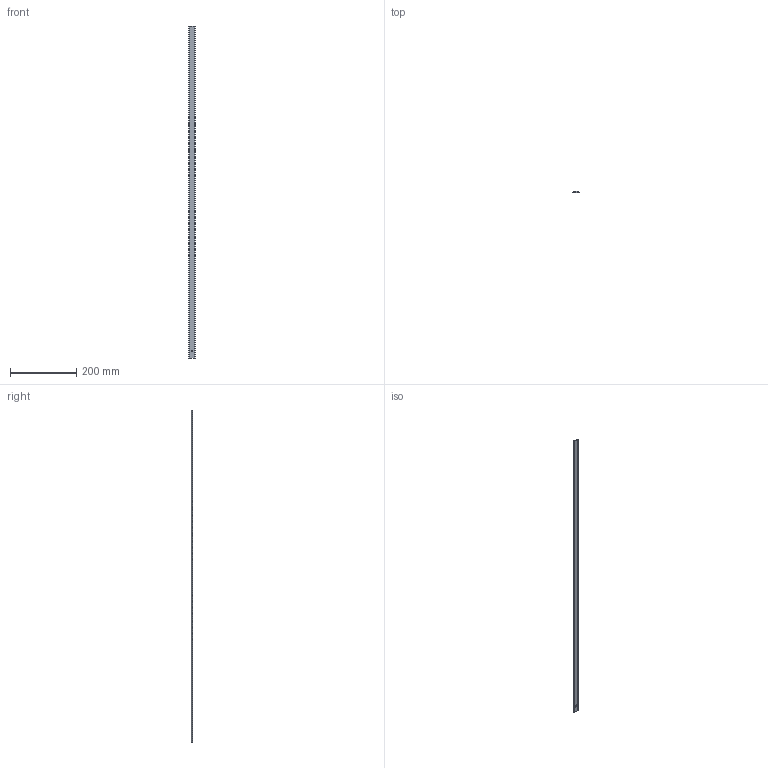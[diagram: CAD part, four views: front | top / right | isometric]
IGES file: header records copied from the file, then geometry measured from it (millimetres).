
Start section: SolidWorks IGES file using analytic representation for surfaces
Global section: file name: D:\CERAR\Dokumenti\DOKUMENTACIJA-mehanskih-delov-RLSizdelkov-\LM10\Profili-za-MS10B-track-scale-system-dokumentacija\SWelements-ANG\Profile-TRS100A00.IGS; native system: SolidWorks 2013; preprocessor: SolidWorks 2013; author: cerar; date: 151127.114123; units: millimetre
Bounding box: 20 x 4 x 1000 mm (x, y, z)
Surface area: 47397.9 mm2 (no closed solid volume)
Topology: 0 solids, 0 shells, 43 faces, 428 edges, 428 vertices
Faces by surface type: bspline 25, revolution 18
